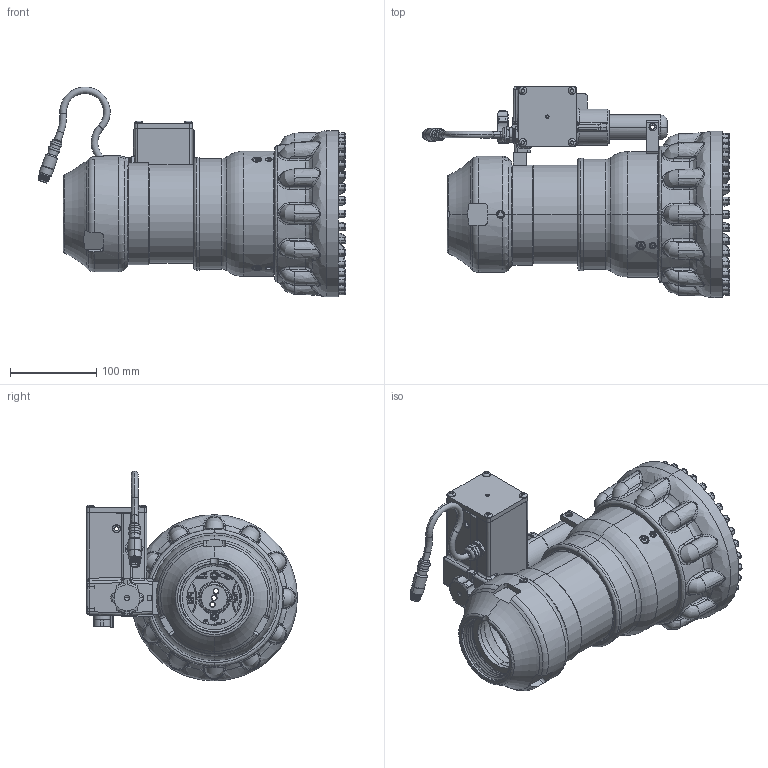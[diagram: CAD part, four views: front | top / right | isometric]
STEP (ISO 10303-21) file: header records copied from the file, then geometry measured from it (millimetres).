
FILE_DESCRIPTION (( 'STEP AP203' ), '1' );
FILE_NAME ('m-erp1250-nj.step', '2015-02-18T17:31:09', ( '' ), ( '' ), 'SwSTEP 2.0', 'SolidWorks 2015', '' );
FILE_SCHEMA (( 'CONFIG_CONTROL_DESIGN' ));
Products named in the file (1): m-erp1250-nj
Bounding box: 356.68 x 244.5 x 243.44 mm (x, y, z)
Surface area: 408905.3 mm2 (no closed solid volume)
Topology: 0 solids, 166 shells, 1714 faces, 6828 edges, 5224 vertices
Faces by surface type: cylinder 578, bspline 456, plane 392, torus 103, cone 101, sphere 84
Entity records: 113717 total; most frequent: CARTESIAN_POINT 64961, ORIENTED_EDGE 10516, DIRECTION 7967, EDGE_CURVE 6818, VERTEX_POINT 5220, AXIS2_PLACEMENT_3D 3004, B_SPLINE_CURVE_WITH_KNOTS 2480, VECTOR 1959
